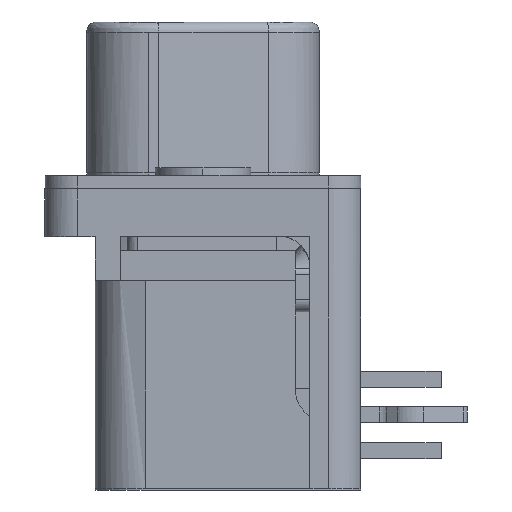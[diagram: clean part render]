
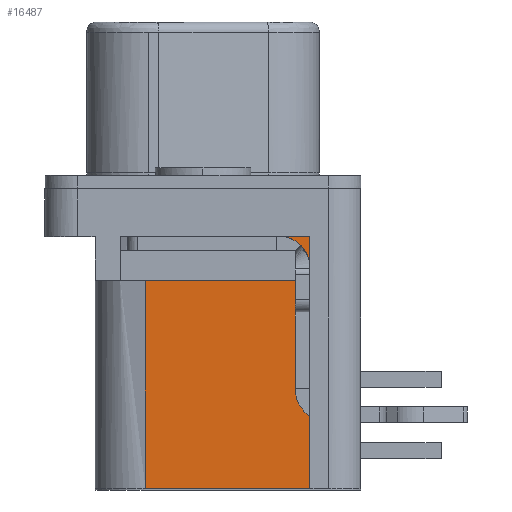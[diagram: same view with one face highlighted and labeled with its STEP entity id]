
A CAD part, left-side view. The second image highlights one B-rep face of the part: STEP entity #16487.
In plain terms, the highlighted free-form (B-spline) face has degree [1, 1] with [2, 2] control points.
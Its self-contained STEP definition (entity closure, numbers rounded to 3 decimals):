
#64 = EDGE_CURVE ( 'NONE', #11809, #18507, #16736, .T. ) ;
#234 = EDGE_CURVE ( 'NONE', #4162, #18507, #3870, .T. ) ;
#453 = CARTESIAN_POINT ( 'NONE',  ( -16.534, 7.728, -9.604 ) ) ;
#480 = CARTESIAN_POINT ( 'NONE',  ( -16.534, 7.728, -9.604 ) ) ;
#1306 = VERTEX_POINT ( 'NONE', #7633 ) ;
#3041 = B_SPLINE_CURVE_WITH_KNOTS ( 'NONE', 1,
 ( #15573, #480 ),
 .UNSPECIFIED., .F., .F.,
 ( 2, 2 ),
 ( 0., 1. ),
 .UNSPECIFIED. ) ;
#3385 = CARTESIAN_POINT ( 'NONE',  ( -16.534, 7.728, 0.396 ) ) ;
#3752 = EDGE_CURVE ( 'NONE', #1306, #11809, #5345, .T. ) ;
#3870 = B_SPLINE_CURVE_WITH_KNOTS ( 'NONE', 1,
 ( #14745, #7355 ),
 .UNSPECIFIED., .F., .F.,
 ( 2, 2 ),
 ( 0., 1. ),
 .UNSPECIFIED. ) ;
#4162 = VERTEX_POINT ( 'NONE', #5292 ) ;
#4483 = CARTESIAN_POINT ( 'NONE',  ( -16.534, 1.192, -9.604 ) ) ;
#5108 = CARTESIAN_POINT ( 'NONE',  ( -16.534, 1.192, -9.604 ) ) ;
#5292 = CARTESIAN_POINT ( 'NONE',  ( -16.534, 7.728, -9.604 ) ) ;
#5345 = B_SPLINE_CURVE_WITH_KNOTS ( 'NONE', 1,
 ( #14706, #5424 ),
 .UNSPECIFIED., .F., .F.,
 ( 2, 2 ),
 ( 0., 1. ),
 .UNSPECIFIED. ) ;
#5424 = CARTESIAN_POINT ( 'NONE',  ( -16.534, 1.192, 0.396 ) ) ;
#5977 = ORIENTED_EDGE ( 'NONE', *, *, #234, .T. ) ;
#6358 = B_SPLINE_SURFACE_WITH_KNOTS ( 'NONE', 1, 1, ( 
 ( #3385, #15551 ),
 ( #453, #10953 ) ),
 .UNSPECIFIED., .F., .F., .F.,
 ( 2, 2 ),
 ( 2, 2 ),
 ( 0., 1. ),
 ( 0., 1. ),
 .UNSPECIFIED. ) ;
#7355 = CARTESIAN_POINT ( 'NONE',  ( -16.534, 1.192, -9.604 ) ) ;
#7633 = CARTESIAN_POINT ( 'NONE',  ( -16.534, 7.728, 0.396 ) ) ;
#7967 = FACE_OUTER_BOUND ( 'NONE', #18182, .T. ) ;
#9161 = CARTESIAN_POINT ( 'NONE',  ( -16.534, 1.192, 0.396 ) ) ;
#10953 = CARTESIAN_POINT ( 'NONE',  ( -16.534, 1.192, -9.604 ) ) ;
#11809 = VERTEX_POINT ( 'NONE', #17718 ) ;
#14706 = CARTESIAN_POINT ( 'NONE',  ( -16.534, 7.728, 0.396 ) ) ;
#14745 = CARTESIAN_POINT ( 'NONE',  ( -16.534, 7.728, -9.604 ) ) ;
#15551 = CARTESIAN_POINT ( 'NONE',  ( -16.534, 1.192, 0.396 ) ) ;
#15573 = CARTESIAN_POINT ( 'NONE',  ( -16.534, 7.728, 0.396 ) ) ;
#16050 = EDGE_CURVE ( 'NONE', #1306, #4162, #3041, .T. ) ;
#16487 = ADVANCED_FACE ( 'NONE', ( #7967 ), #6358, .T. ) ;
#16736 = B_SPLINE_CURVE_WITH_KNOTS ( 'NONE', 1,
 ( #9161, #4483 ),
 .UNSPECIFIED., .F., .F.,
 ( 2, 2 ),
 ( 0., 1. ),
 .UNSPECIFIED. ) ;
#16813 = ORIENTED_EDGE ( 'NONE', *, *, #3752, .F. ) ;
#17718 = CARTESIAN_POINT ( 'NONE',  ( -16.534, 1.192, 0.396 ) ) ;
#18182 = EDGE_LOOP ( 'NONE', ( #5977, #19033, #16813, #18632 ) ) ;
#18507 = VERTEX_POINT ( 'NONE', #5108 ) ;
#18632 = ORIENTED_EDGE ( 'NONE', *, *, #16050, .T. ) ;
#19033 = ORIENTED_EDGE ( 'NONE', *, *, #64, .F. ) ;
